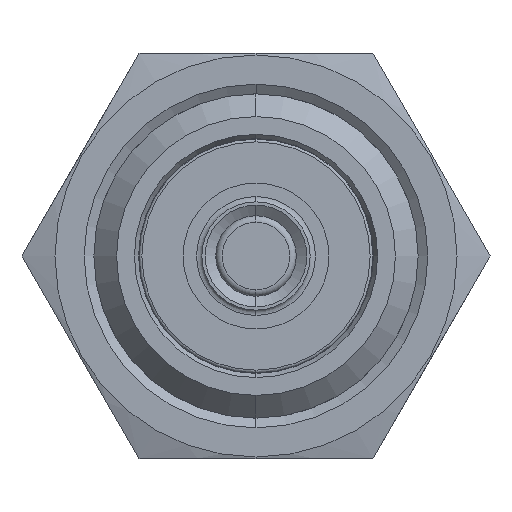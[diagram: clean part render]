
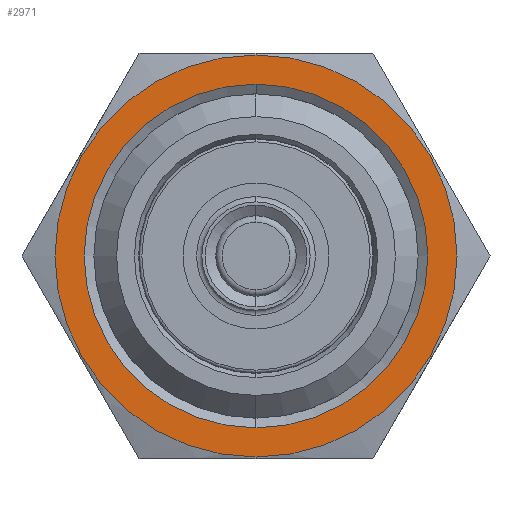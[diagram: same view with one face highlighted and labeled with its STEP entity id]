
A CAD part, left-side view. The second image highlights one B-rep face of the part: STEP entity #2971.
In plain terms, the highlighted planar face has unit normal (-1, 0, 0).
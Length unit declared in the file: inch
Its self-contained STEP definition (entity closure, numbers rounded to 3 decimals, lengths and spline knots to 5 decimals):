
#102 = ORIENTED_EDGE ( 'NONE', *, *, #3202, .T. ) ;
#103 = ORIENTED_EDGE ( 'NONE', *, *, #3167, .T. ) ;
#104 = ORIENTED_EDGE ( 'NONE', *, *, #3201, .F. ) ;
#105 = ORIENTED_EDGE ( 'NONE', *, *, #3175, .F. ) ;
#211 = EDGE_LOOP ( 'NONE', ( #102, #103 ) ) ;
#214 = EDGE_LOOP ( 'NONE', ( #104, #105 ) ) ;
#1081 = AXIS2_PLACEMENT_3D ( 'NONE', #2393, #2394, #2395 ) ;
#2379 = FACE_OUTER_BOUND ( 'NONE', #211, .T. ) ;
#2381 = FACE_BOUND ( 'NONE', #214, .T. ) ;
#2382 = PLANE ( 'NONE',  #1081 ) ;
#2393 = CARTESIAN_POINT ( 'NONE',  ( -0.06, 0.18042, -0.3125 ) ) ;
#2394 = DIRECTION ( 'NONE',  ( 1., 0., 0. ) ) ;
#2395 = DIRECTION ( 'NONE',  ( 0., 0., -1. ) ) ;
#2971 = ADVANCED_FACE ( 'NONE', ( #2379, #2381 ), #2382, .F. ) ;
#3167 = EDGE_CURVE ( 'NONE', #3286, #3288, #4255, .T. ) ;
#3175 = EDGE_CURVE ( 'NONE', #3298, #3299, #4266, .T. ) ;
#3201 = EDGE_CURVE ( 'NONE', #3299, #3298, #4283, .T. ) ;
#3202 = EDGE_CURVE ( 'NONE', #3288, #3286, #4288, .T. ) ;
#3286 = VERTEX_POINT ( 'NONE', #4224 ) ;
#3288 = VERTEX_POINT ( 'NONE', #4225 ) ;
#3298 = VERTEX_POINT ( 'NONE', #4234 ) ;
#3299 = VERTEX_POINT ( 'NONE', #4235 ) ;
#4078 = CARTESIAN_POINT ( 'NONE',  ( -0.06, 0., 0. ) ) ;
#4079 = DIRECTION ( 'NONE',  ( -1., 0., 0. ) ) ;
#4080 = DIRECTION ( 'NONE',  ( 0., 0., 1. ) ) ;
#4110 = CARTESIAN_POINT ( 'NONE',  ( -0.06, 0., 0. ) ) ;
#4111 = DIRECTION ( 'NONE',  ( -1., 0., 0. ) ) ;
#4112 = DIRECTION ( 'NONE',  ( 0., 0., 1. ) ) ;
#4208 = CARTESIAN_POINT ( 'NONE',  ( -0.06, 0., 0. ) ) ;
#4209 = DIRECTION ( 'NONE',  ( -1., 0., 0. ) ) ;
#4210 = DIRECTION ( 'NONE',  ( 0., 0., 1. ) ) ;
#4213 = CARTESIAN_POINT ( 'NONE',  ( -0.06, 0., 0. ) ) ;
#4214 = DIRECTION ( 'NONE',  ( -1., 0., 0. ) ) ;
#4215 = DIRECTION ( 'NONE',  ( 0., 0., 1. ) ) ;
#4224 = CARTESIAN_POINT ( 'NONE',  ( -0.06, 0., -0.31 ) ) ;
#4225 = CARTESIAN_POINT ( 'NONE',  ( -0.06, 0., 0.31 ) ) ;
#4234 = CARTESIAN_POINT ( 'NONE',  ( -0.06, 0., -0.265 ) ) ;
#4235 = CARTESIAN_POINT ( 'NONE',  ( -0.06, 0., 0.265 ) ) ;
#4255 = CIRCLE ( 'NONE', #4262, 0.31 ) ;
#4262 = AXIS2_PLACEMENT_3D ( 'NONE', #4078, #4079, #4080 ) ;
#4266 = CIRCLE ( 'NONE', #4268, 0.265 ) ;
#4268 = AXIS2_PLACEMENT_3D ( 'NONE', #4110, #4111, #4112 ) ;
#4283 = CIRCLE ( 'NONE', #4289, 0.265 ) ;
#4288 = CIRCLE ( 'NONE', #4290, 0.31 ) ;
#4289 = AXIS2_PLACEMENT_3D ( 'NONE', #4208, #4209, #4210 ) ;
#4290 = AXIS2_PLACEMENT_3D ( 'NONE', #4213, #4214, #4215 ) ;
